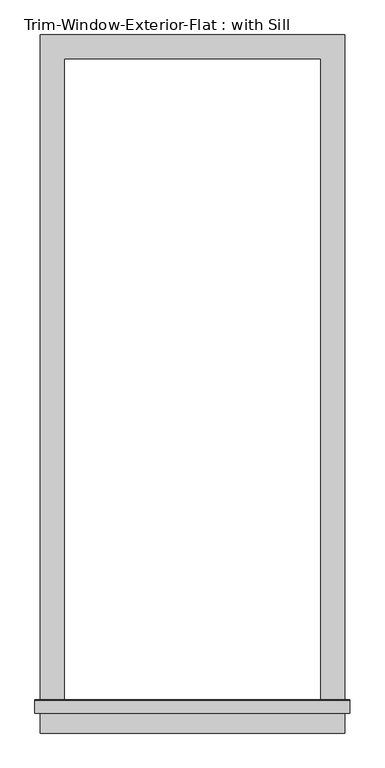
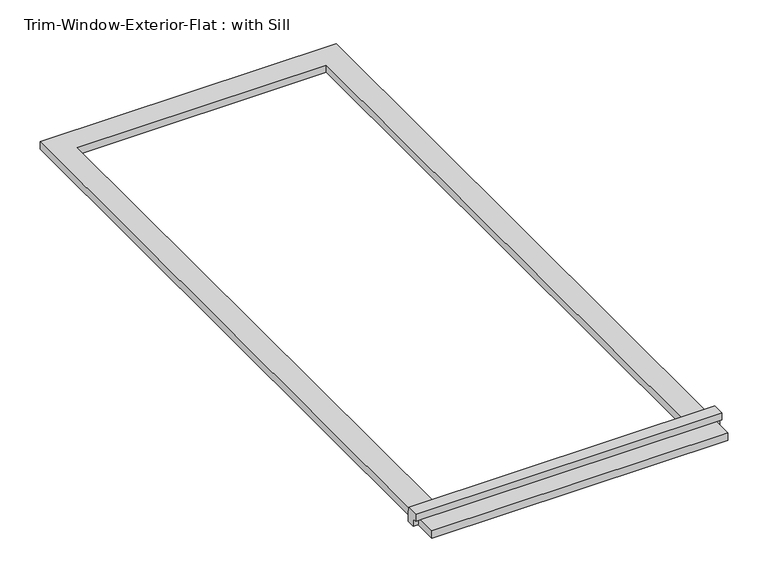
"""IFC4 building model written with IfcOpenShell, lengths in millimetres: proxy geometry, Trim-Window-Exterior-Flat : with Sill."""

from ifc_helpers import new_model, si_unit, frame, origin, origin_with_axes, place, context, project, spatial, polyline, outline, extrude, source, transform, mapped, element, save


def trim_window_exterior_flat_with_sill_4912eb0d(model_context):
    return source(origin(), model_context, "Body", "SweptSolid", [
        extrude(outline(polyline([(361.95, -1546.1823709), (361.95, -1603.3323709), (-361.95, -1603.3323709), (-361.95, -1546.1823709), (361.95, -1546.1823709)])), origin_with_axes(), (0.0, 0.0, 1.0), 19.05),
        extrude(outline(polyline([(-1555.75, 38.1), (-1526.4580645, 38.1), (-1524.0, 19.05), (-1524.0, 0.0), (-1546.1823709, 0.0), (-1546.1823709, 19.05), (-1555.75, 19.05), (-1555.75, 38.1)])), frame((-374.65, 0.0, 0.0), z_axis=(1.0, 0.0, 0.0), x_axis=(0.0, 1.0, 0.0)), (0.0, 0.0, 1.0), 749.3),
        extrude(outline(polyline([(-361.95, 57.15), (361.95, 57.15), (361.95, -1524.0), (304.8, -1524.0), (304.8, 0.0), (-304.8, 0.0), (-304.8, -1524.0), (-361.95, -1524.0), (-361.95, 57.15)])), origin_with_axes(), (0.0, 0.0, 1.0), 19.05),
    ])


if __name__ == "__main__":
    model = new_model("IFC4")
    model_context = context("Model", 3, world=origin())
    ifc_project = project(units=[si_unit("LENGTHUNIT", "METRE", prefix="MILLI")], contexts=[model_context])
    site = spatial("IfcSite", under=ifc_project)
    building = spatial("IfcBuilding", under=site)
    placement = place(None, origin())
    trim_window_exterior_flat_with_sill_shape = trim_window_exterior_flat_with_sill_4912eb0d(model_context)
    element("IfcBuildingElementProxy", 1, Name="Trim-Window-Exterior-Flat : with Sill", ObjectType="Trim-Window-Exterior-Flat : with Sill", at=placement, inside=building, context=model_context, shape_type="MappedRepresentation", body=[
        mapped(trim_window_exterior_flat_with_sill_shape, transform((0.0, 0.0, 0.0), x_axis=(1.0, 0.0, 0.0), y_axis=(0.0, 1.0, 0.0), z_axis=(0.0, 0.0, 1.0))),
    ])
    save(model, "model.ifc")
